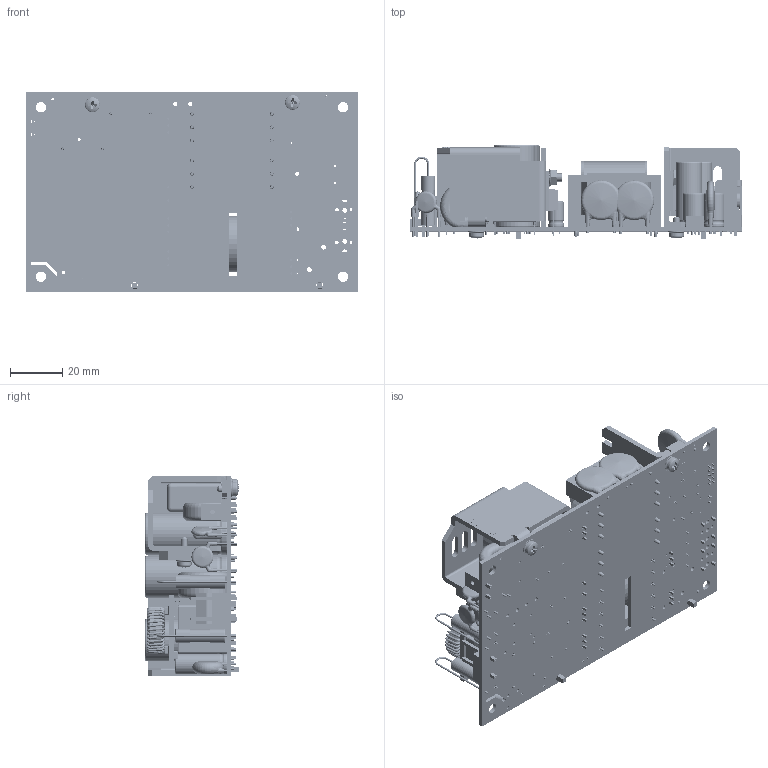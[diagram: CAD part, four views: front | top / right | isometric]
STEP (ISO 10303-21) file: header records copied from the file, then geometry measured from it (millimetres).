
FILE_DESCRIPTION (( 'STEP AP214' ), '1' );
FILE_NAME ('GCS350PS12-15 STD (Screw Term).STEP', '2018-11-12T18:34:10', ( '' ), ( '' ), 'SwSTEP 2.0', 'SolidWorks 2018', '' );
FILE_SCHEMA (( 'AUTOMOTIVE_DESIGN' ));
Length unit declared in the file: inch
Products named in the file (38): Inductor Toroid_18.0mm OD_7mm Width; Screw_Flat Head Phillips (Metric)_(1314)_M3 x 8; Inductor Toroid_20.0mm OD_10mm Width; Capacitor Disc_0.300 D X .40 LS; Nut_Keps_4-40_Star_01; Faston .25 X .032; Screw_Sq Cone_no 4_01_.250"; Xfmr_GCS150; Capacitor Elec_06mm D_10mm H; TO220_2P_01; L4; Conn_JST_S10B-PHDSS-B_Vertical; 1001720901; CON MLX  .156 3P; 1001720802; Choke Output Rod; 1001721001; Conn_MLX_KK100_Hdr_02P; 1001720602; Capacitor Elec_10mm D_25mm; TO220_3P_01; 10017249 (inductor L1); GCS350PS12-15 STD (Screw Term); Capacitor Elec_08mm D_13mm H; L1 winding; Capacitor Disc_0.500 D_0.400" C; 10017648 (Base Inductor 17x27mm); Bridge Rectifier_GBU6K_Lead trimed; Screw_Sq Cone_no 4_01_.375"; CAP FILM_17x11x21MM_15LS; Capacitor Elec_16mm Dx31.5mm H_30mm; Pot_Top adj_Type1_01; Capacitor Film_12x5mm_10 LS; Capacitor Film_18x11mm_15 LS_19mm H; MOV-S10K140E2; CAP FILM_17x5x11MM_15LS; Capacitor Elec_08mm D_20mm H; FUSE-0
Assembly tree (66 placements, depth 3):
  GCS350PS12-15 STD (Screw Term)
    1001720602
    1001721001  x2
    1001720802
    1001720901
    L4
    Xfmr_GCS150
    Faston .25 X .032
    Capacitor Disc_0.300 D X .40 LS  x3
    Inductor Toroid_20.0mm OD_10mm Width
    Inductor Toroid_18.0mm OD_7mm Width
    FUSE-0  x2
    CAP FILM_17x5x11MM_15LS
    Capacitor Film_18x11mm_15 LS_19mm H  x2
    Pot_Top adj_Type1_01
    CAP FILM_17x11x21MM_15LS
    Bridge Rectifier_GBU6K_Lead trimed
    Capacitor Disc_0.500 D_0.400" C  x4
    Capacitor Elec_08mm D_13mm H  x2
    TO220_3P_01  x5
    Capacitor Elec_10mm D_25mm  x4
    Conn_MLX_KK100_Hdr_02P
    Choke Output Rod
    CON MLX  .156 3P
    Conn_JST_S10B-PHDSS-B_Vertical
    TO220_2P_01
    Screw_Sq Cone_no 4_01_.250"  x2
    Nut_Keps_4-40_Star_01  x6
    Screw_Flat Head Phillips (Metric)_(1314)_M3 x 8  x6
    Capacitor Elec_06mm D_10mm H
    Capacitor Elec_08mm D_20mm H
    MOV-S10K140E2
    Capacitor Film_12x5mm_10 LS
    Capacitor Elec_16mm Dx31.5mm H_30mm  x3
    Screw_Sq Cone_no 4_01_.375"
    10017249 (inductor L1)
      10017648 (Base Inductor 17x27mm)
      L1 winding
Bounding box: 127 x 35.95 x 76.21 mm (x, y, z)
Volume: 123582 mm3; surface area: 89623.4 mm2
Topology: 91 solids, 108 shells, 4591 faces, 11246 edges, 6996 vertices
Faces by surface type: plane 2114, cylinder 1196, bspline 743, cone 278, torus 222, sphere 38
Entity records: 140148 total; most frequent: CARTESIAN_POINT 55049, ORIENTED_EDGE 14726, DIRECTION 14418, EDGE_CURVE 7363, AXIS2_PLACEMENT_3D 5277, VERTEX_POINT 4549, LINE 3864, VECTOR 3864
